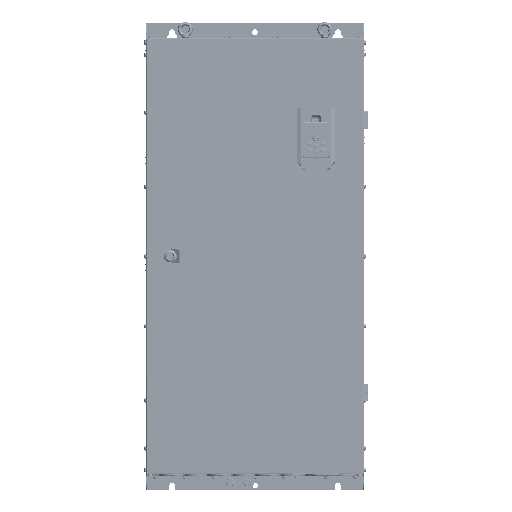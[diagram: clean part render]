
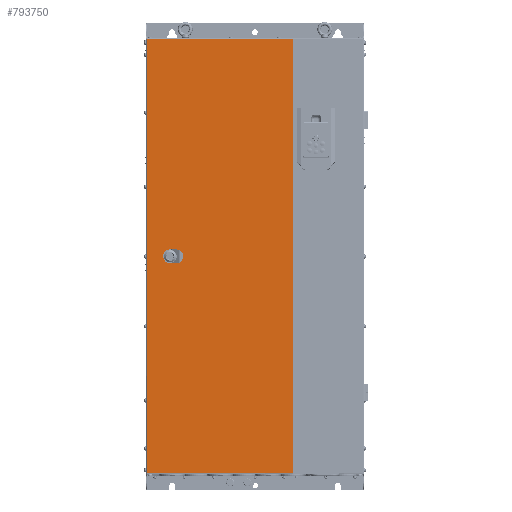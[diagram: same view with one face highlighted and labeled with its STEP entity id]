
A CAD part, top view. The second image highlights one B-rep face of the part: STEP entity #793750.
In plain terms, the highlighted planar face has unit normal (0, 0, 1).
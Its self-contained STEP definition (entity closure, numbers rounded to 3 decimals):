
#791761=DIRECTION('',(0.,-1.,0.));
#791762=VECTOR('',#791761,995.05);
#791763=CARTESIAN_POINT('',(-247.25,997.75,10.5));
#791764=LINE('',#791763,#791762);
#792131=DIRECTION('',(1.,0.,0.));
#792132=VECTOR('',#792131,334.25);
#792133=CARTESIAN_POINT('',(-247.25,2.7,10.5));
#792134=LINE('',#792133,#792132);
#792192=DIRECTION('',(1.,0.,0.));
#792193=VECTOR('',#792192,12.052);
#792194=CARTESIAN_POINT('',(-200.526,509.5,10.5));
#792195=LINE('',#792194,#792193);
#792199=CARTESIAN_POINT('',(-194.5,500.,10.5));
#792200=DIRECTION('',(0.,0.,1.));
#792201=DIRECTION('',(-0.536,0.844,0.));
#792202=AXIS2_PLACEMENT_3D('',#792199,#792200,#792201);
#792207=DIRECTION('',(0.,1.,0.));
#792208=VECTOR('',#792207,12.052);
#792209=CARTESIAN_POINT('',(-204.,493.974,10.5));
#792210=LINE('',#792209,#792208);
#792214=CARTESIAN_POINT('',(-194.5,500.,10.5));
#792215=DIRECTION('',(0.,0.,1.));
#792216=DIRECTION('',(-0.844,-0.536,0.));
#792217=AXIS2_PLACEMENT_3D('',#792214,#792215,#792216);
#792222=DIRECTION('',(-1.,0.,0.));
#792223=VECTOR('',#792222,12.052);
#792224=CARTESIAN_POINT('',(-188.474,490.5,10.5));
#792225=LINE('',#792224,#792223);
#792229=CARTESIAN_POINT('',(-194.5,500.,10.5));
#792230=DIRECTION('',(0.,0.,1.));
#792231=DIRECTION('',(0.536,-0.844,0.));
#792232=AXIS2_PLACEMENT_3D('',#792229,#792230,#792231);
#792237=DIRECTION('',(0.,-1.,0.));
#792238=VECTOR('',#792237,12.052);
#792239=CARTESIAN_POINT('',(-185.,506.026,10.5));
#792240=LINE('',#792239,#792238);
#792244=CARTESIAN_POINT('',(-194.5,500.,10.5));
#792245=DIRECTION('',(0.,0.,1.));
#792246=DIRECTION('',(0.844,0.536,0.));
#792247=AXIS2_PLACEMENT_3D('',#792244,#792245,#792246);
#792252=DIRECTION('',(0.,-1.,0.));
#792253=VECTOR('',#792252,995.05);
#792254=CARTESIAN_POINT('',(87.,997.75,10.5));
#792255=LINE('',#792254,#792253);
#792337=DIRECTION('',(1.,0.,0.));
#792338=VECTOR('',#792337,334.25);
#792339=CARTESIAN_POINT('',(-247.25,997.75,10.5));
#792340=LINE('',#792339,#792338);
#793085=CARTESIAN_POINT('',(-247.25,997.75,10.5));
#793086=CARTESIAN_POINT('',(-247.25,2.7,10.5));
#793087=VERTEX_POINT('',#793085);
#793088=VERTEX_POINT('',#793086);
#793198=CARTESIAN_POINT('',(-200.526,509.5,10.5));
#793199=CARTESIAN_POINT('',(-188.474,509.5,10.5));
#793200=VERTEX_POINT('',#793198);
#793201=VERTEX_POINT('',#793199);
#793202=CARTESIAN_POINT('',(-185.,506.026,10.5));
#793203=VERTEX_POINT('',#793202);
#793204=CARTESIAN_POINT('',(-185.,493.974,10.5));
#793205=VERTEX_POINT('',#793204);
#793206=CARTESIAN_POINT('',(-188.474,490.5,10.5));
#793207=VERTEX_POINT('',#793206);
#793208=CARTESIAN_POINT('',(-200.526,490.5,10.5));
#793209=VERTEX_POINT('',#793208);
#793210=CARTESIAN_POINT('',(-204.,493.974,10.5));
#793211=VERTEX_POINT('',#793210);
#793212=CARTESIAN_POINT('',(-204.,506.026,10.5));
#793213=VERTEX_POINT('',#793212);
#793230=CARTESIAN_POINT('',(87.,997.75,10.5));
#793231=CARTESIAN_POINT('',(87.,2.7,10.5));
#793232=VERTEX_POINT('',#793230);
#793233=VERTEX_POINT('',#793231);
#793720=CARTESIAN_POINT('',(-249.5,1000.,10.5));
#793721=DIRECTION('',(0.,0.,1.));
#793722=DIRECTION('',(0.,-1.,0.));
#793723=AXIS2_PLACEMENT_3D('',#793720,#793721,#793722);
#793724=PLANE('',#793723);
#793725=ORIENTED_EDGE('',*,*,#793711,.T.);
#793726=ORIENTED_EDGE('',*,*,#793650,.F.);
#793727=ORIENTED_EDGE('',*,*,#793402,.F.);
#793729=ORIENTED_EDGE('',*,*,#793728,.T.);
#793730=EDGE_LOOP('',(#793725,#793726,#793727,#793729));
#793731=FACE_OUTER_BOUND('',#793730,.F.);
#793733=ORIENTED_EDGE('',*,*,#793732,.F.);
#793735=ORIENTED_EDGE('',*,*,#793734,.T.);
#793737=ORIENTED_EDGE('',*,*,#793736,.F.);
#793739=ORIENTED_EDGE('',*,*,#793738,.T.);
#793741=ORIENTED_EDGE('',*,*,#793740,.F.);
#793743=ORIENTED_EDGE('',*,*,#793742,.T.);
#793745=ORIENTED_EDGE('',*,*,#793744,.F.);
#793747=ORIENTED_EDGE('',*,*,#793746,.T.);
#793748=EDGE_LOOP('',(#793733,#793735,#793737,#793739,#793741,#793743,#793745,
#793747));
#793749=FACE_BOUND('',#793748,.F.);
#793750=ADVANCED_FACE('',(#793731,#793749),#793724,.T.);
#792203=CIRCLE('',#792202,11.25);
#792218=CIRCLE('',#792217,11.25);
#792233=CIRCLE('',#792232,11.25);
#792248=CIRCLE('',#792247,11.25);
#793402=EDGE_CURVE('',#793087,#793088,#791764,.T.);
#793650=EDGE_CURVE('',#793088,#793233,#792134,.T.);
#793711=EDGE_CURVE('',#793232,#793233,#792255,.T.);
#793728=EDGE_CURVE('',#793087,#793232,#792340,.T.);
#793732=EDGE_CURVE('',#793200,#793201,#792195,.T.);
#793734=EDGE_CURVE('',#793200,#793213,#792203,.T.);
#793736=EDGE_CURVE('',#793211,#793213,#792210,.T.);
#793738=EDGE_CURVE('',#793211,#793209,#792218,.T.);
#793740=EDGE_CURVE('',#793207,#793209,#792225,.T.);
#793742=EDGE_CURVE('',#793207,#793205,#792233,.T.);
#793744=EDGE_CURVE('',#793203,#793205,#792240,.T.);
#793746=EDGE_CURVE('',#793203,#793201,#792248,.T.);
